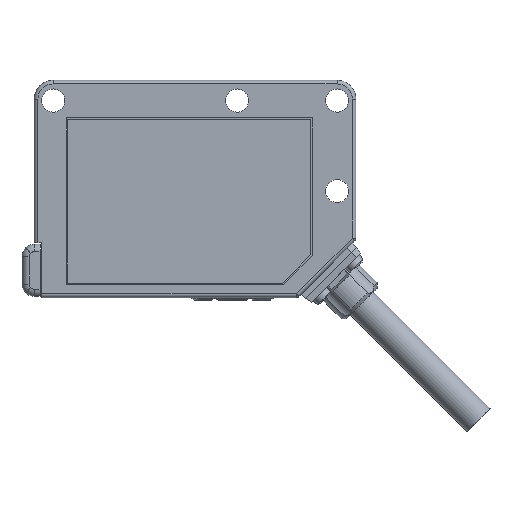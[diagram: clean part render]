
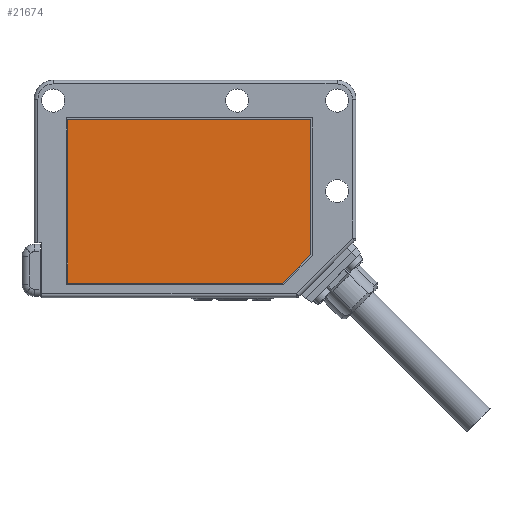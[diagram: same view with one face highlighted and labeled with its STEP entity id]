
A CAD part, front view. The second image highlights one B-rep face of the part: STEP entity #21674.
In plain terms, the highlighted planar face has unit normal (0, -1, 0).
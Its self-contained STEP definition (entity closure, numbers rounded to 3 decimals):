
#673 = LINE ( 'NONE', #23106, #12588 ) ;
#1186 = LINE ( 'NONE', #21523, #5112 ) ;
#1411 = ORIENTED_EDGE ( 'NONE', *, *, #18901, .T. ) ;
#1695 = CARTESIAN_POINT ( 'NONE',  ( 16., 0.05, -9.117 ) ) ;
#1972 = ORIENTED_EDGE ( 'NONE', *, *, #20329, .T. ) ;
#2823 = CARTESIAN_POINT ( 'NONE',  ( -17.6, 0.05, 9.6 ) ) ;
#2895 = DIRECTION ( 'NONE',  ( 0., 0., -1. ) ) ;
#4213 = VECTOR ( 'NONE', #22157, 1000. ) ;
#4495 = VERTEX_POINT ( 'NONE', #19648 ) ;
#4603 = CARTESIAN_POINT ( 'NONE',  ( 16., 0.05, 9.6 ) ) ;
#5112 = VECTOR ( 'NONE', #2895, 1000. ) ;
#5563 = DIRECTION ( 'NONE',  ( 0., -1., 0. ) ) ;
#6092 = DIRECTION ( 'NONE',  ( 1., 0., 0. ) ) ;
#6210 = DIRECTION ( 'NONE',  ( -1., 0., 0. ) ) ;
#6260 = EDGE_LOOP ( 'NONE', ( #1972, #19581, #21464, #10114, #1411 ) ) ;
#6849 = EDGE_CURVE ( 'NONE', #14832, #21442, #14685, .T. ) ;
#7642 = PLANE ( 'NONE',  #15471 ) ;
#7919 = VECTOR ( 'NONE', #22825, 1000. ) ;
#8865 = EDGE_CURVE ( 'NONE', #16591, #14832, #13404, .T. ) ;
#10114 = ORIENTED_EDGE ( 'NONE', *, *, #11951, .T. ) ;
#11951 = EDGE_CURVE ( 'NONE', #21442, #21060, #17460, .T. ) ;
#12588 = VECTOR ( 'NONE', #6092, 1000. ) ;
#13327 = CARTESIAN_POINT ( 'NONE',  ( 16., 0.05, 9.6 ) ) ;
#13404 = LINE ( 'NONE', #15347, #7919 ) ;
#14685 = LINE ( 'NONE', #1695, #4213 ) ;
#14832 = VERTEX_POINT ( 'NONE', #19198 ) ;
#15347 = CARTESIAN_POINT ( 'NONE',  ( 12.117, 0.05, -13. ) ) ;
#15471 = AXIS2_PLACEMENT_3D ( 'NONE', #24194, #5563, #23948 ) ;
#16292 = VECTOR ( 'NONE', #6210, 1000. ) ;
#16591 = VERTEX_POINT ( 'NONE', #23144 ) ;
#17460 = LINE ( 'NONE', #4603, #16292 ) ;
#18413 = FACE_OUTER_BOUND ( 'NONE', #6260, .T. ) ;
#18901 = EDGE_CURVE ( 'NONE', #21060, #4495, #1186, .T. ) ;
#19198 = CARTESIAN_POINT ( 'NONE',  ( 16., 0.05, -9.117 ) ) ;
#19581 = ORIENTED_EDGE ( 'NONE', *, *, #8865, .T. ) ;
#19648 = CARTESIAN_POINT ( 'NONE',  ( -17.6, 0.05, -13. ) ) ;
#20329 = EDGE_CURVE ( 'NONE', #4495, #16591, #673, .T. ) ;
#21060 = VERTEX_POINT ( 'NONE', #2823 ) ;
#21442 = VERTEX_POINT ( 'NONE', #13327 ) ;
#21464 = ORIENTED_EDGE ( 'NONE', *, *, #6849, .T. ) ;
#21523 = CARTESIAN_POINT ( 'NONE',  ( -17.6, 0.05, 9.6 ) ) ;
#21674 = ADVANCED_FACE ( 'NONE', ( #18413 ), #7642, .T. ) ;
#22157 = DIRECTION ( 'NONE',  ( 0., 0., 1. ) ) ;
#22825 = DIRECTION ( 'NONE',  ( 0.707, 0., 0.707 ) ) ;
#23106 = CARTESIAN_POINT ( 'NONE',  ( -17.6, 0.05, -13. ) ) ;
#23144 = CARTESIAN_POINT ( 'NONE',  ( 12.117, 0.05, -13. ) ) ;
#23948 = DIRECTION ( 'NONE',  ( 0., 0., -1. ) ) ;
#24194 = CARTESIAN_POINT ( 'NONE',  ( 0., 0.05, 0. ) ) ;
